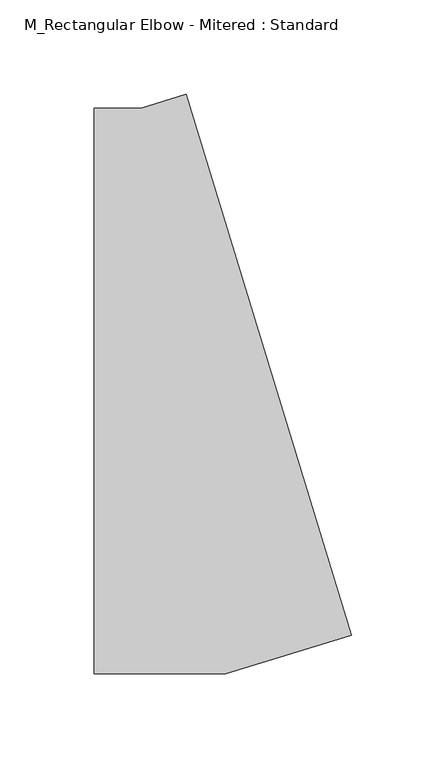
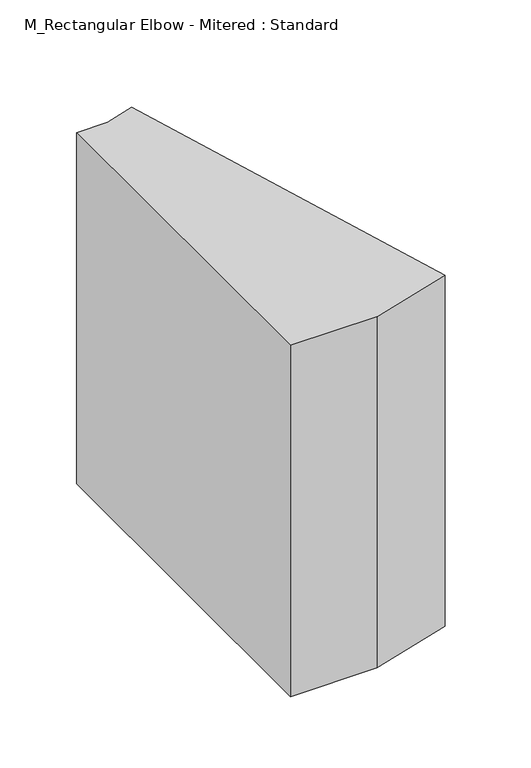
"""IFC4 building model written with IfcOpenShell, lengths in millimetres: duct fitting geometry, M_Rectangular Elbow - Mitered : Standard."""

from ifc_helpers import new_model, si_unit, frame, origin, place, context, project, spatial, polyline, outline, extrude, source, transform, mapped, element, save


def m_rectangular_elbow_mitered_standard_7d0aea46(model_context):
    return source(origin(), model_context, "Body", "SweptSolid", [
        extrude(outline(polyline([(-47.4176502, -150.0), (-47.4176502, 150.0), (-22.4176502, 150.0), (1.4899687, 157.3092926), (89.2014801, -129.5821342), (22.4176502, -150.0), (-47.4176502, -150.0)])), frame((0.0, 0.0, -150.0), z_axis=(0.0, 0.0, 1.0), x_axis=(1.0, 0.0, 0.0)), (0.0, 0.0, 1.0), 300.0),
        extrude(outline(polyline([(-47.4176502, -150.0), (-47.4176502, 150.0), (-22.4176502, 150.0), (1.4899687, 157.3092926), (89.2014801, -129.5821342), (22.4176502, -150.0), (-47.4176502, -150.0)])), frame((0.0, 0.0, -150.0), z_axis=(0.0, 0.0, 1.0), x_axis=(1.0, 0.0, 0.0)), (0.0, 0.0, 1.0), 300.0),
        extrude(outline(polyline([(-47.4176502, -150.0), (-47.4176502, 150.0), (-22.4176502, 150.0), (1.4899687, 157.3092926), (89.2014801, -129.5821342), (22.4176502, -150.0), (-47.4176502, -150.0)])), frame((0.0, 0.0, -150.0), z_axis=(0.0, 0.0, 1.0), x_axis=(1.0, 0.0, 0.0)), (0.0, 0.0, 1.0), 300.0),
    ])


if __name__ == "__main__":
    model = new_model("IFC4")
    model_context = context("Model", 3, world=origin())
    ifc_project = project(units=[si_unit("LENGTHUNIT", "METRE", prefix="MILLI")], contexts=[model_context])
    site = spatial("IfcSite", under=ifc_project)
    building = spatial("IfcBuilding", under=site)
    placement = place(None, origin())
    m_rectangular_elbow_mitered_standard_shape = m_rectangular_elbow_mitered_standard_7d0aea46(model_context)
    element("IfcDuctFitting", 1, ObjectType="M_Rectangular Elbow - Mitered : Standard", at=placement, inside=building, context=model_context, shape_type="MappedRepresentation", body=[
        mapped(m_rectangular_elbow_mitered_standard_shape, transform((0.0, 0.0, 0.0), x_axis=(1.0, 0.0, 0.0), y_axis=(0.0, 1.0, 0.0), z_axis=(0.0, 0.0, 1.0))),
    ])
    save(model, "model.ifc")
